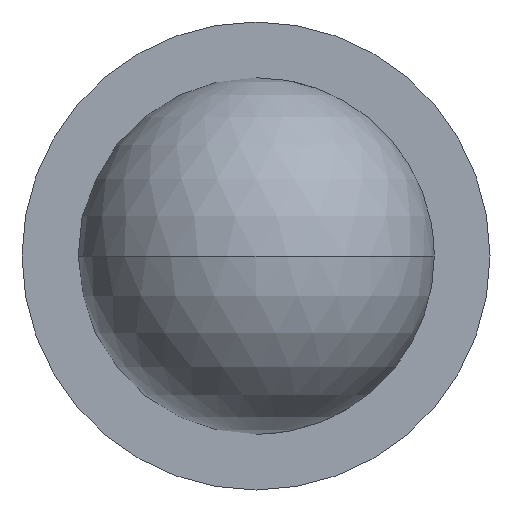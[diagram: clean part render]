
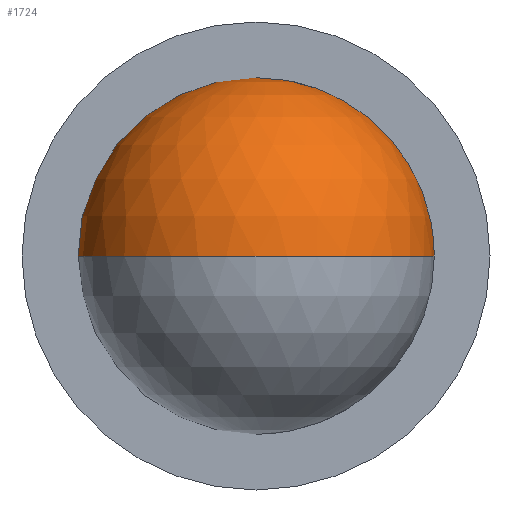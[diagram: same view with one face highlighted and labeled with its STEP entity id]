
A CAD part, front view. The second image highlights one B-rep face of the part: STEP entity #1724.
In plain terms, the highlighted spherical face has radius 80 mm.
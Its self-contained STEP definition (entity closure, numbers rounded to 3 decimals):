
#423 = DIRECTION ( 'NONE',  ( -1., 0., 0. ) ) ;
#465 = VERTEX_POINT ( 'NONE', #575 ) ;
#575 = CARTESIAN_POINT ( 'NONE',  ( 25., 75.993, 0. ) ) ;
#656 = DIRECTION ( 'NONE',  ( 0., 1., 0. ) ) ;
#1109 = CIRCLE ( 'NONE', #2101, 80. ) ;
#1245 = ORIENTED_EDGE ( 'NONE', *, *, #4163, .F. ) ;
#1312 = FACE_OUTER_BOUND ( 'NONE', #1633, .T. ) ;
#1371 = EDGE_CURVE ( 'NONE', #2735, #465, #3130, .T. ) ;
#1462 = AXIS2_PLACEMENT_3D ( 'NONE', #4167, #1678, #2330 ) ;
#1619 = EDGE_CURVE ( 'NONE', #2735, #4454, #1109, .T. ) ;
#1633 = EDGE_LOOP ( 'NONE', ( #4315, #3698, #1245 ) ) ;
#1673 = CARTESIAN_POINT ( 'NONE',  ( 0., 75.993, 0. ) ) ;
#1678 = DIRECTION ( 'NONE',  ( 0., 0., -1. ) ) ;
#1685 = DIRECTION ( 'NONE',  ( 1., 0., 0. ) ) ;
#1724 = ADVANCED_FACE ( 'NONE', ( #1312 ), #2034, .T. ) ;
#2034 = SPHERICAL_SURFACE ( 'NONE', #1462, 80. ) ;
#2101 = AXIS2_PLACEMENT_3D ( 'NONE', #3914, #3335, #423 ) ;
#2330 = DIRECTION ( 'NONE',  ( 1., 0., 0. ) ) ;
#2417 = CARTESIAN_POINT ( 'NONE',  ( 0., 0., 0. ) ) ;
#2565 = AXIS2_PLACEMENT_3D ( 'NONE', #1673, #656, #4512 ) ;
#2735 = VERTEX_POINT ( 'NONE', #2740 ) ;
#2740 = CARTESIAN_POINT ( 'NONE',  ( 0., -80., 0. ) ) ;
#3130 = CIRCLE ( 'NONE', #4343, 80. ) ;
#3335 = DIRECTION ( 'NONE',  ( 0., 0., -1. ) ) ;
#3529 = CIRCLE ( 'NONE', #2565, 25. ) ;
#3541 = CARTESIAN_POINT ( 'NONE',  ( -25., 75.993, 0. ) ) ;
#3698 = ORIENTED_EDGE ( 'NONE', *, *, #1371, .T. ) ;
#3914 = CARTESIAN_POINT ( 'NONE',  ( 0., 0., 0. ) ) ;
#4163 = EDGE_CURVE ( 'NONE', #4454, #465, #3529, .T. ) ;
#4167 = CARTESIAN_POINT ( 'NONE',  ( 0., 0., 0. ) ) ;
#4229 = DIRECTION ( 'NONE',  ( 0., 0., 1. ) ) ;
#4315 = ORIENTED_EDGE ( 'NONE', *, *, #1619, .F. ) ;
#4343 = AXIS2_PLACEMENT_3D ( 'NONE', #2417, #4229, #1685 ) ;
#4454 = VERTEX_POINT ( 'NONE', #3541 ) ;
#4512 = DIRECTION ( 'NONE',  ( -1., 0., 0. ) ) ;
